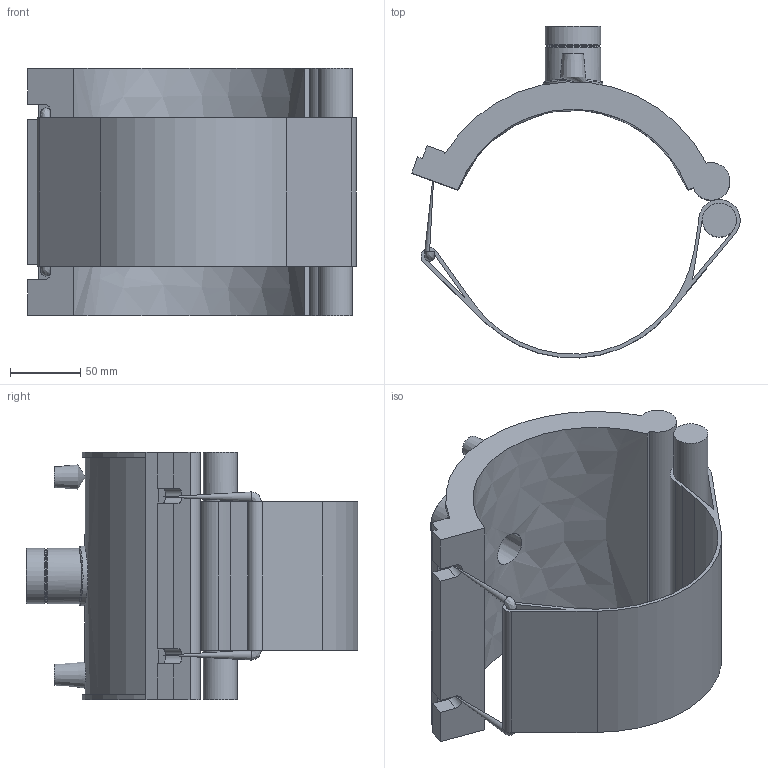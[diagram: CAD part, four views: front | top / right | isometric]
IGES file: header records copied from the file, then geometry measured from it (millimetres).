
Global section: file name: 5938D00306060.ipt; native system: Autodesk Inventor 2019; preprocessor: unknown; author: KIM; date: 20210830.101136; units: inch
Bounding box: 233.85 x 236.35 x 176.02 mm (x, y, z)
Volume: 1086239.1 mm3; surface area: 230837.4 mm2
Topology: 2 solids, 3 shells, 78 faces, 192 edges, 126 vertices
Faces by surface type: plane 42, cylinder 19, revolution 11, cone 5, bspline 1
Full cylindrical faces by diameter (mm): 4 x2, 6.98 x2, 24.296 x1, 38.378 x1, 39.378 x2, 42.407 x1
